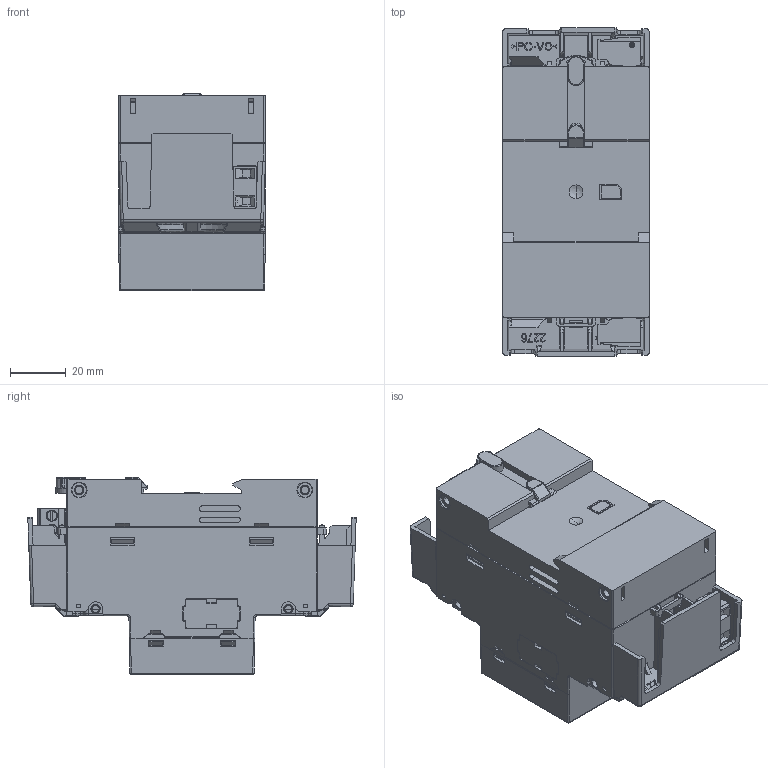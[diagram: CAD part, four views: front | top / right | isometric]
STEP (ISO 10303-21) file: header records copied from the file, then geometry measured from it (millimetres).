
FILE_DESCRIPTION((''),'2;1');
FILE_NAME('0000002228_ASM_1278_SW0001','2021-01-22T10:02:22',('esors'),(''),'CREO PARAMETRIC BY PTC INC, 2018260','CREO PARAMETRIC BY PTC INC, 2018260','');
FILE_SCHEMA(('AUTOMOTIVE_DESIGN { 1 0 10303 214 1 1 1 1 }'));
Products named in the file (1): 0000002228_ASM_1278_SW0001
Bounding box: 52.5 x 117.85 x 70.7 mm (x, y, z)
Volume: 265615.3 mm3; surface area: 78722.8 mm2
Topology: 1 solids, 1 shells, 3265 faces, 9453 edges, 6223 vertices
Faces by surface type: plane 2368, cylinder 453, extrusion 253, cone 105, torus 40, bspline 34, sphere 12
Entity records: 145364 total; most frequent: CARTESIAN_POINT 31272, ORIENTED_EDGE 18882, DIRECTION 15029, PRESENTATION_STYLE_ASSIGNMENT 9442, STYLED_ITEM 9442, CURVE_STYLE 9441, EDGE_CURVE 9441, VECTOR 7397
